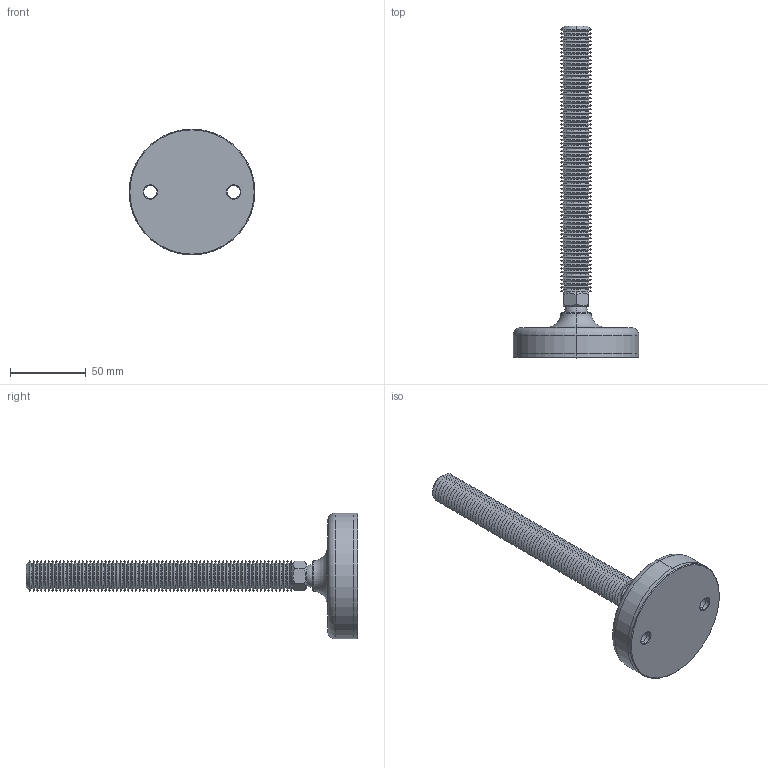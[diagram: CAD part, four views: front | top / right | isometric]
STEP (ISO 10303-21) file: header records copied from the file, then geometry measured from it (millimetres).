
FILE_DESCRIPTION (( 'STEP AP203' ), '1' );
FILE_NAME ('34724.W2004.step', '2019-11-28T22:16:34', ( '' ), ( '' ), 'SwSTEP 2.0', 'SolidWorks 2017', '' );
FILE_SCHEMA (( 'CONFIG_CONTROL_DESIGN' ));
Length unit declared in the file: millimetre
Products named in the file (4): Part1_34724.W2004; 34724.W2004; Part2_34724.W2004; Part3_34724.W2004
Assembly tree (3 placements, depth 2):
  34724.W2004
    Part1_34724.W2004
    Part2_34724.W2004
    Part3_34724.W2004
Bounding box: 83 x 219 x 83 mm (x, y, z)
Volume: 156306 mm3; surface area: 48436.4 mm2
Topology: 3 solids, 3 shells, 328 faces, 671 edges, 349 vertices
Faces by surface type: cone 294, plane 14, cylinder 12, sphere 4, torus 4
Entity records: 8862 total; most frequent: DIRECTION 1656, CARTESIAN_POINT 1488, ORIENTED_EDGE 1324, AXIS2_PLACEMENT_3D 672, EDGE_CURVE 662, VERTEX_POINT 344, EDGE_LOOP 340, CIRCLE 338
